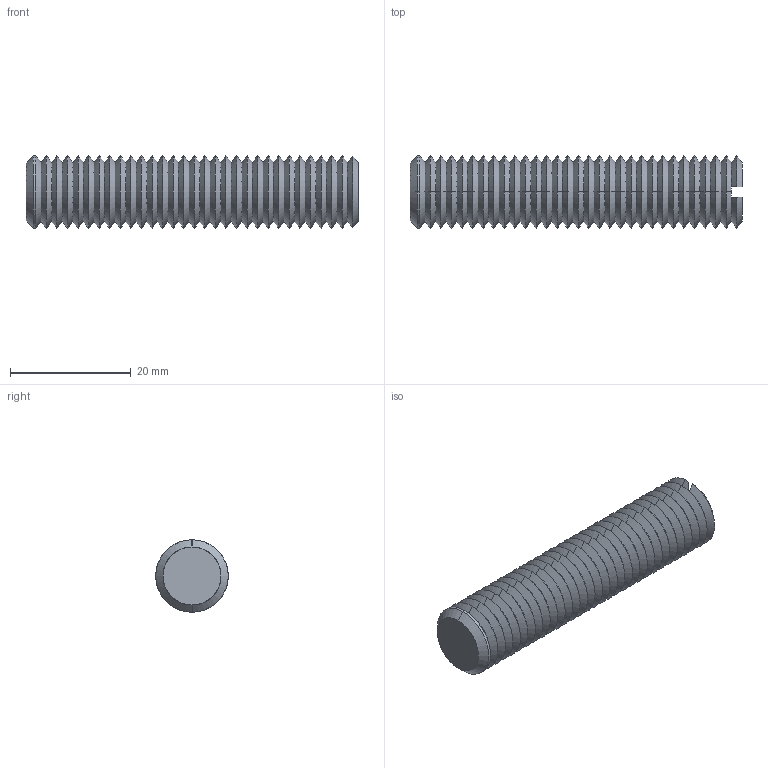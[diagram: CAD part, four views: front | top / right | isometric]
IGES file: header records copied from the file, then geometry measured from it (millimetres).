
Start section: SolidWorks IGES file using analytic representation for surfaces
Global section: file name: C:\Documents and Settings\IANO\Desktop\Temp File\Process pending\EXISTING\34300_v2\34300_v2_20170622_IGES\34300.W0125.igs; native system: SolidWorks 2009; preprocessor: SolidWorks 2009; author: IANO; date: 170622.094233; units: millimetre
Bounding box: 55 x 12 x 12 mm (x, y, z)
Surface area: 3175.8 mm2 (no closed solid volume)
Topology: 0 solids, 0 shells, 132 faces, 592 edges, 592 vertices
Faces by surface type: revolution 126, bspline 6
